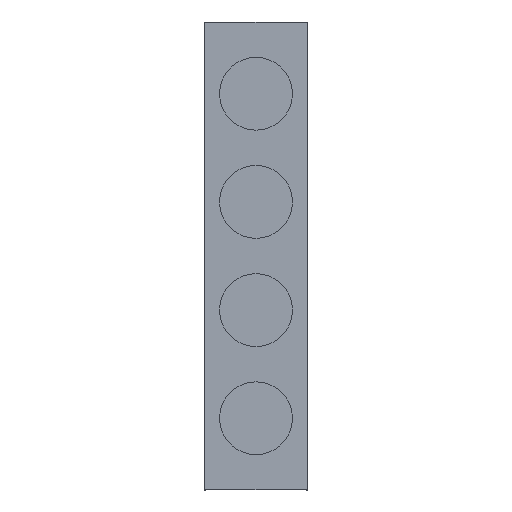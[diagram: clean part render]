
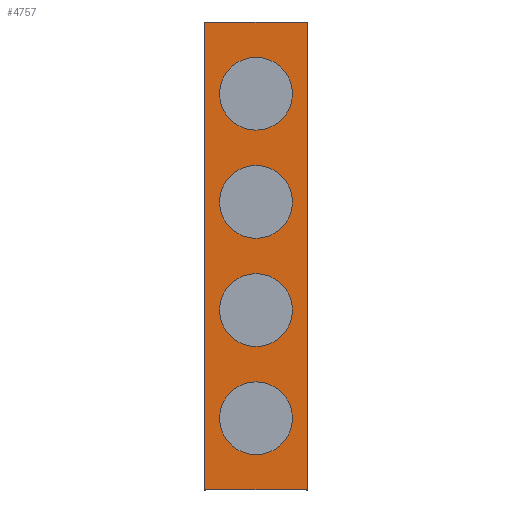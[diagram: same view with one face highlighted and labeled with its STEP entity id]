
A CAD part, top view. The second image highlights one B-rep face of the part: STEP entity #4757.
In plain terms, the highlighted planar face has unit normal (0, 0, 1).
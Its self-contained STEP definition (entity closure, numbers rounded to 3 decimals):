
#16 = CIRCLE ( 'NONE', #5493, 140. ) ;
#42 = CIRCLE ( 'NONE', #5355, 140. ) ;
#63 = CARTESIAN_POINT ( 'NONE',  ( -140., 624., 20. ) ) ;
#88 = LINE ( 'NONE', #809, #9443 ) ;
#200 = EDGE_CURVE ( 'NONE', #1950, #2786, #6978, .T. ) ;
#426 = DIRECTION ( 'NONE',  ( 0., -1., 0. ) ) ;
#431 = CARTESIAN_POINT ( 'NONE',  ( 140., 624., 20. ) ) ;
#516 = EDGE_CURVE ( 'NONE', #4770, #8385, #5068, .T. ) ;
#607 = CARTESIAN_POINT ( 'NONE',  ( 0., -624., 20. ) ) ;
#660 = VERTEX_POINT ( 'NONE', #2936 ) ;
#722 = CARTESIAN_POINT ( 'NONE',  ( 0., 208., 20. ) ) ;
#741 = FACE_BOUND ( 'NONE', #6390, .T. ) ;
#809 = CARTESIAN_POINT ( 'NONE',  ( 198., 900., 20. ) ) ;
#840 = VERTEX_POINT ( 'NONE', #4491 ) ;
#849 = LINE ( 'NONE', #8330, #4030 ) ;
#907 = DIRECTION ( 'NONE',  ( 0., 0., 1. ) ) ;
#966 = ORIENTED_EDGE ( 'NONE', *, *, #8951, .T. ) ;
#1271 = CARTESIAN_POINT ( 'NONE',  ( 140., 208., 20. ) ) ;
#1544 = VERTEX_POINT ( 'NONE', #4988 ) ;
#1656 = ORIENTED_EDGE ( 'NONE', *, *, #5693, .F. ) ;
#1661 = VERTEX_POINT ( 'NONE', #8541 ) ;
#1680 = CIRCLE ( 'NONE', #5621, 140. ) ;
#1881 = LINE ( 'NONE', #6395, #2532 ) ;
#1941 = DIRECTION ( 'NONE',  ( 1., 0., 0. ) ) ;
#1950 = VERTEX_POINT ( 'NONE', #3097 ) ;
#2010 = DIRECTION ( 'NONE',  ( 0., 0., 1. ) ) ;
#2023 = CIRCLE ( 'NONE', #9231, 140. ) ;
#2073 = DIRECTION ( 'NONE',  ( 0., 0., 1. ) ) ;
#2139 = ORIENTED_EDGE ( 'NONE', *, *, #4754, .F. ) ;
#2141 = EDGE_CURVE ( 'NONE', #5256, #840, #16, .T. ) ;
#2208 = FACE_BOUND ( 'NONE', #3359, .T. ) ;
#2339 = CARTESIAN_POINT ( 'NONE',  ( -198., 900., 20. ) ) ;
#2383 = EDGE_CURVE ( 'NONE', #840, #5256, #42, .T. ) ;
#2451 = DIRECTION ( 'NONE',  ( 0., 0., 1. ) ) ;
#2532 = VECTOR ( 'NONE', #8553, 1000. ) ;
#2611 = EDGE_CURVE ( 'NONE', #9027, #1544, #88, .T. ) ;
#2786 = VERTEX_POINT ( 'NONE', #6442 ) ;
#2829 = AXIS2_PLACEMENT_3D ( 'NONE', #9169, #2451, #3871 ) ;
#2936 = CARTESIAN_POINT ( 'NONE',  ( -198., -900., 20. ) ) ;
#2967 = CARTESIAN_POINT ( 'NONE',  ( 0., -208., 20. ) ) ;
#3076 = ORIENTED_EDGE ( 'NONE', *, *, #7698, .F. ) ;
#3097 = CARTESIAN_POINT ( 'NONE',  ( 140., -624., 20. ) ) ;
#3302 = ORIENTED_EDGE ( 'NONE', *, *, #7934, .F. ) ;
#3359 = EDGE_LOOP ( 'NONE', ( #6257, #2139 ) ) ;
#3452 = VECTOR ( 'NONE', #426, 1000. ) ;
#3526 = ORIENTED_EDGE ( 'NONE', *, *, #2141, .F. ) ;
#3631 = ORIENTED_EDGE ( 'NONE', *, *, #5791, .T. ) ;
#3636 = EDGE_CURVE ( 'NONE', #9520, #1661, #4771, .T. ) ;
#3696 = DIRECTION ( 'NONE',  ( 1., 0., 0. ) ) ;
#3871 = DIRECTION ( 'NONE',  ( 1., 0., 0. ) ) ;
#3950 = CARTESIAN_POINT ( 'NONE',  ( 198., 900., 20. ) ) ;
#4030 = VECTOR ( 'NONE', #8283, 1000. ) ;
#4101 = AXIS2_PLACEMENT_3D ( 'NONE', #6388, #9391, #5675 ) ;
#4103 = VERTEX_POINT ( 'NONE', #2339 ) ;
#4162 = AXIS2_PLACEMENT_3D ( 'NONE', #8658, #9518, #1941 ) ;
#4469 = FACE_BOUND ( 'NONE', #8473, .T. ) ;
#4491 = CARTESIAN_POINT ( 'NONE',  ( -140., 208., 20. ) ) ;
#4527 = ORIENTED_EDGE ( 'NONE', *, *, #516, .F. ) ;
#4531 = CARTESIAN_POINT ( 'NONE',  ( 0., 208., 20. ) ) ;
#4588 = DIRECTION ( 'NONE',  ( 1., 0., 0. ) ) ;
#4708 = AXIS2_PLACEMENT_3D ( 'NONE', #5436, #907, #8393 ) ;
#4754 = EDGE_CURVE ( 'NONE', #1661, #9520, #2023, .T. ) ;
#4757 = ADVANCED_FACE ( 'NONE', ( #2208, #4469, #7464, #741, #9535 ), #5763, .T. ) ;
#4770 = VERTEX_POINT ( 'NONE', #63 ) ;
#4771 = CIRCLE ( 'NONE', #6664, 140. ) ;
#4831 = ORIENTED_EDGE ( 'NONE', *, *, #2611, .F. ) ;
#4988 = CARTESIAN_POINT ( 'NONE',  ( 198., -900., 20. ) ) ;
#5068 = CIRCLE ( 'NONE', #4101, 140. ) ;
#5229 = DIRECTION ( 'NONE',  ( 1., 0., 0. ) ) ;
#5234 = EDGE_LOOP ( 'NONE', ( #966, #3076, #4831, #3631 ) ) ;
#5256 = VERTEX_POINT ( 'NONE', #1271 ) ;
#5328 = DIRECTION ( 'NONE',  ( 0., 0., 1. ) ) ;
#5355 = AXIS2_PLACEMENT_3D ( 'NONE', #722, #8244, #5229 ) ;
#5436 = CARTESIAN_POINT ( 'NONE',  ( 0., 624., 20. ) ) ;
#5493 = AXIS2_PLACEMENT_3D ( 'NONE', #4531, #5328, #4588 ) ;
#5621 = AXIS2_PLACEMENT_3D ( 'NONE', #607, #6582, #5656 ) ;
#5656 = DIRECTION ( 'NONE',  ( 1., 0., 0. ) ) ;
#5675 = DIRECTION ( 'NONE',  ( 1., 0., 0. ) ) ;
#5693 = EDGE_CURVE ( 'NONE', #8385, #4770, #6903, .T. ) ;
#5763 = PLANE ( 'NONE',  #2829 ) ;
#5791 = EDGE_CURVE ( 'NONE', #9027, #4103, #1881, .T. ) ;
#6257 = ORIENTED_EDGE ( 'NONE', *, *, #3636, .F. ) ;
#6294 = CARTESIAN_POINT ( 'NONE',  ( -198., 900., 20. ) ) ;
#6388 = CARTESIAN_POINT ( 'NONE',  ( 0., 624., 20. ) ) ;
#6390 = EDGE_LOOP ( 'NONE', ( #8916, #3302 ) ) ;
#6395 = CARTESIAN_POINT ( 'NONE',  ( -200., 900., 20. ) ) ;
#6442 = CARTESIAN_POINT ( 'NONE',  ( -140., -624., 20. ) ) ;
#6582 = DIRECTION ( 'NONE',  ( 0., 0., 1. ) ) ;
#6664 = AXIS2_PLACEMENT_3D ( 'NONE', #2967, #2073, #8100 ) ;
#6903 = CIRCLE ( 'NONE', #4708, 140. ) ;
#6978 = CIRCLE ( 'NONE', #4162, 140. ) ;
#7464 = FACE_BOUND ( 'NONE', #8735, .T. ) ;
#7573 = DIRECTION ( 'NONE',  ( 0., -1., 0. ) ) ;
#7698 = EDGE_CURVE ( 'NONE', #1544, #660, #849, .T. ) ;
#7934 = EDGE_CURVE ( 'NONE', #2786, #1950, #1680, .T. ) ;
#8100 = DIRECTION ( 'NONE',  ( 1., 0., 0. ) ) ;
#8182 = CARTESIAN_POINT ( 'NONE',  ( 0., -208., 20. ) ) ;
#8244 = DIRECTION ( 'NONE',  ( 0., 0., 1. ) ) ;
#8283 = DIRECTION ( 'NONE',  ( -1., 0., 0. ) ) ;
#8330 = CARTESIAN_POINT ( 'NONE',  ( -200., -900., 20. ) ) ;
#8385 = VERTEX_POINT ( 'NONE', #431 ) ;
#8393 = DIRECTION ( 'NONE',  ( 1., 0., 0. ) ) ;
#8473 = EDGE_LOOP ( 'NONE', ( #3526, #9359 ) ) ;
#8541 = CARTESIAN_POINT ( 'NONE',  ( -140., -208., 20. ) ) ;
#8553 = DIRECTION ( 'NONE',  ( -1., 0., 0. ) ) ;
#8596 = LINE ( 'NONE', #6294, #3452 ) ;
#8606 = CARTESIAN_POINT ( 'NONE',  ( 140., -208., 20. ) ) ;
#8658 = CARTESIAN_POINT ( 'NONE',  ( 0., -624., 20. ) ) ;
#8735 = EDGE_LOOP ( 'NONE', ( #1656, #4527 ) ) ;
#8916 = ORIENTED_EDGE ( 'NONE', *, *, #200, .F. ) ;
#8951 = EDGE_CURVE ( 'NONE', #4103, #660, #8596, .T. ) ;
#9027 = VERTEX_POINT ( 'NONE', #3950 ) ;
#9169 = CARTESIAN_POINT ( 'NONE',  ( -200., 900., 20. ) ) ;
#9231 = AXIS2_PLACEMENT_3D ( 'NONE', #8182, #2010, #3696 ) ;
#9359 = ORIENTED_EDGE ( 'NONE', *, *, #2383, .F. ) ;
#9391 = DIRECTION ( 'NONE',  ( 0., 0., 1. ) ) ;
#9443 = VECTOR ( 'NONE', #7573, 1000. ) ;
#9518 = DIRECTION ( 'NONE',  ( 0., 0., 1. ) ) ;
#9520 = VERTEX_POINT ( 'NONE', #8606 ) ;
#9535 = FACE_OUTER_BOUND ( 'NONE', #5234, .T. ) ;
